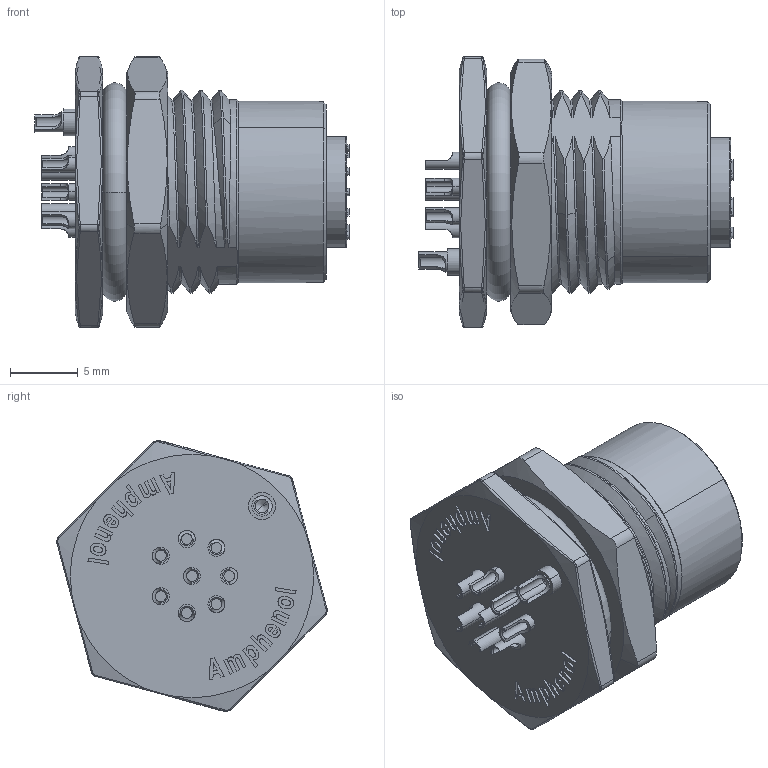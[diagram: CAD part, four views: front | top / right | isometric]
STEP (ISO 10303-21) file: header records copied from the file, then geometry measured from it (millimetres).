
FILE_DESCRIPTION((''),'2;1');
FILE_NAME('MSAS-08PFFS-SF8001','2017-06-01T',('KS7212'),(''),'PRO/ENGINEER BY PARAMETRIC TECHNOLOGY CORPORATION, 2013050','PRO/ENGINEER BY PARAMETRIC TECHNOLOGY CORPORATION, 2013050','');
FILE_SCHEMA(('CONFIG_CONTROL_DESIGN'));
Length unit declared in the file: millimetre
Products named in the file (1): MSAS-08PFFS-SF8001
Bounding box: 23.2 x 19.96 x 19.96 mm (x, y, z)
Volume: 3132.7 mm3; surface area: 3419.6 mm2
Topology: 1 solids, 7 shells, 896 faces, 2373 edges, 1537 vertices
Faces by surface type: plane 350, cylinder 210, extrusion 141, cone 96, bspline 88, torus 9, sphere 2
Entity records: 48574 total; most frequent: CARTESIAN_POINT 20759, ORIENTED_EDGE 4710, DIRECTION 3700, EDGE_CURVE 2355, VERTEX_POINT 1537, VECTOR 1292, AXIS2_PLACEMENT_3D 1204, LINE 1151
